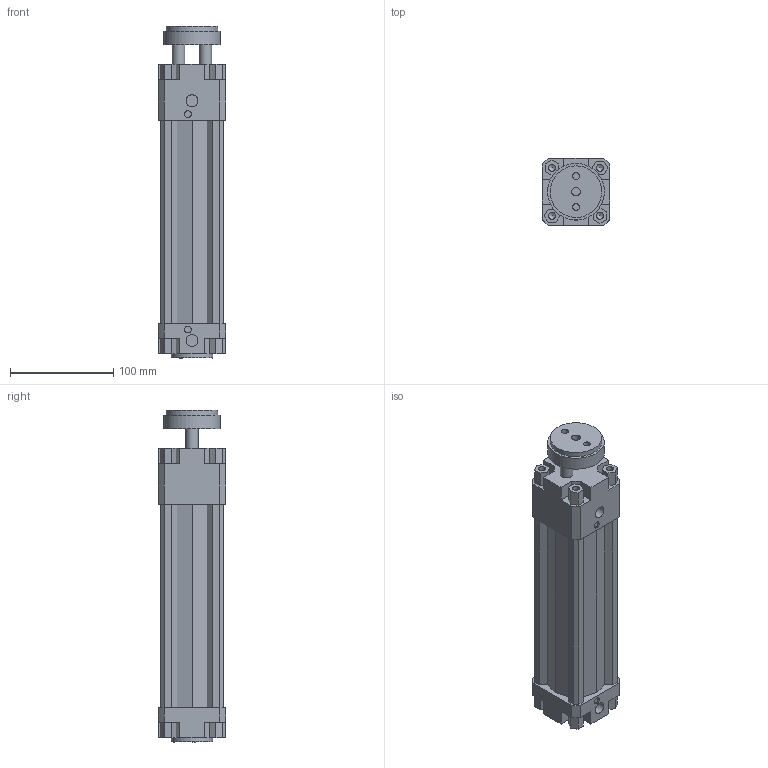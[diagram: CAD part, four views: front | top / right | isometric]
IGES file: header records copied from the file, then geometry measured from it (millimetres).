
Global section: file name: 134#_050_0150_01; native system: Autodesk Inventor 2014; preprocessor: unknown; author: A. Manieri; date: 20161006.164334; units: millimetre
Bounding box: 65 x 65 x 322 mm (x, y, z)
Volume: 701684.5 mm3; surface area: 167049.7 mm2
Topology: 2 solids, 2 shells, 180 faces, 492 edges, 336 vertices
Faces by surface type: bspline 180
